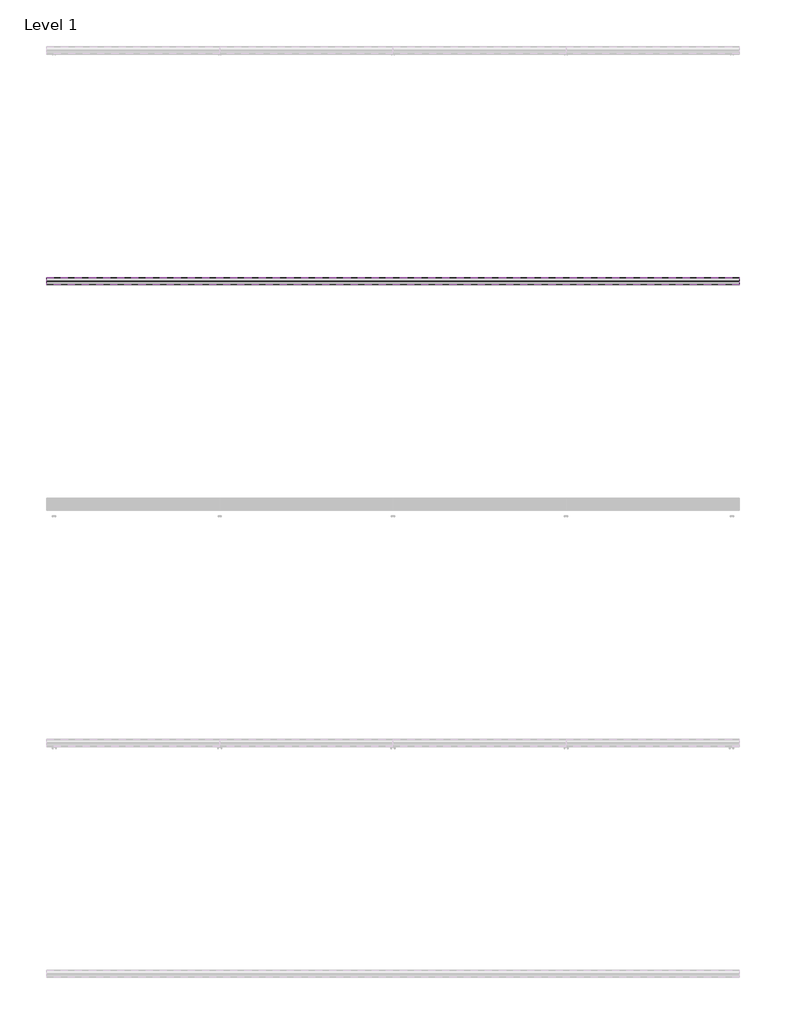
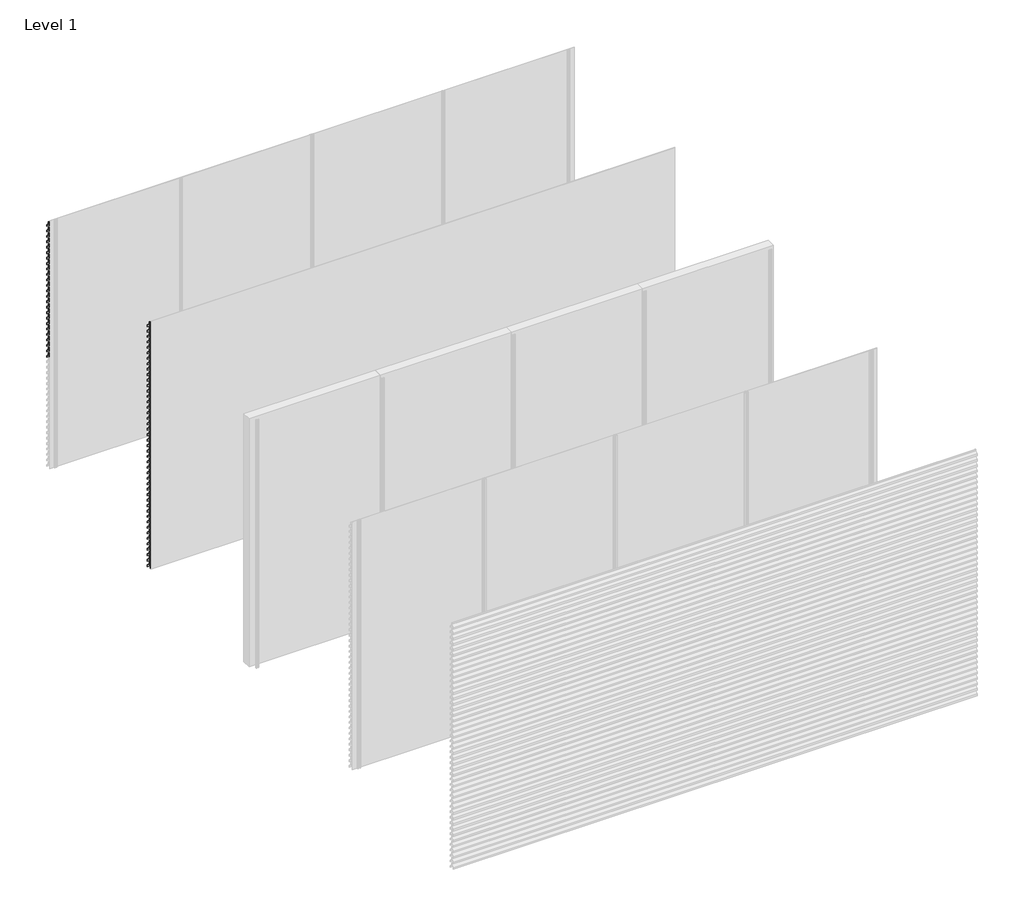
# One storey, part 32 of 35: 71 proxies.
"""IFC4 building model written with IfcOpenShell, lengths in millimetres."""

from ifc_helpers import new_model, si_unit, frame, origin, place, context, project, spatial, polyline, outline, extrude, element, save

model = new_model("IFC4")

# Units and contexts
model_context = context("Model", 3, world=origin())
ifc_project = project(units=[si_unit("LENGTHUNIT", "METRE", prefix="MILLI")], contexts=[model_context])

# Site, building, storey
site = spatial("IfcSite", under=ifc_project)
building = spatial("IfcBuilding", under=site)
storey = spatial("IfcBuildingStorey", under=building, Name="Level 1", Elevation=0.0)

# Proxies
placement = place(None, origin())
element("IfcBuildingElementProxy", 1, Name="Wall Sweeps", at=placement, inside=storey, context=model_context, shape_type="SweptSolid", body=[
    extrude(outline(polyline([(64.0, 2916.0), (64.0, 2896.0), (62.75, 2896.0), (62.75, 2915.4342979), (31.8861061, 2948.531772), (3.3, 2928.4392868), (3.3, 2909.6629874), (2.0, 2908.8506572), (2.0, 2929.1145472), (31.462475, 2949.823011), (31.462475, 2970.0), (32.8227376, 2970.0), (32.8227376, 2949.4335207), (64.0, 2916.0)])), frame((0.0, 0.0, 0.0), z_axis=(1.0, 0.0, 0.0), x_axis=(0.0, 1.0, 0.0)), (0.0, 0.0, 1.0), 1500.0),
])
element("IfcBuildingElementProxy", 2, Name="Wall Sweeps", at=placement, inside=storey, context=model_context, shape_type="SweptSolid", body=[
    extrude(outline(polyline([(64.0, 2850.0), (64.0, 2830.0), (62.75, 2830.0), (62.75, 2849.4342979), (31.8861061, 2882.531772), (3.3, 2862.4392868), (3.3, 2843.6629874), (2.0, 2842.8506572), (2.0, 2863.1145472), (31.462475, 2883.823011), (31.462475, 2904.0), (32.8227376, 2904.0), (32.8227376, 2883.4335207), (64.0, 2850.0)])), frame((0.0, 0.0, 0.0), z_axis=(1.0, 0.0, 0.0), x_axis=(0.0, 1.0, 0.0)), (0.0, 0.0, 1.0), 1500.0),
])
element("IfcBuildingElementProxy", 3, Name="Wall Sweeps", at=placement, inside=storey, context=model_context, shape_type="SweptSolid", body=[
    extrude(outline(polyline([(64.0, 2784.0), (64.0, 2764.0), (62.75, 2764.0), (62.75, 2783.4342979), (31.8861061, 2816.531772), (3.3, 2796.4392868), (3.3, 2777.6629874), (2.0, 2776.8506572), (2.0, 2797.1145472), (31.462475, 2817.823011), (31.462475, 2838.0), (32.8227376, 2838.0), (32.8227376, 2817.4335207), (64.0, 2784.0)])), frame((0.0, 0.0, 0.0), z_axis=(1.0, 0.0, 0.0), x_axis=(0.0, 1.0, 0.0)), (0.0, 0.0, 1.0), 1500.0),
])
element("IfcBuildingElementProxy", 4, Name="Wall Sweeps", at=placement, inside=storey, context=model_context, shape_type="SweptSolid", body=[
    extrude(outline(polyline([(64.0, 2718.0), (64.0, 2698.0), (62.75, 2698.0), (62.75, 2717.4342979), (31.8861061, 2750.531772), (3.3, 2730.4392868), (3.3, 2711.6629874), (2.0, 2710.8506572), (2.0, 2731.1145472), (31.462475, 2751.823011), (31.462475, 2772.0), (32.8227376, 2772.0), (32.8227376, 2751.4335207), (64.0, 2718.0)])), frame((0.0, 0.0, 0.0), z_axis=(1.0, 0.0, 0.0), x_axis=(0.0, 1.0, 0.0)), (0.0, 0.0, 1.0), 1500.0),
])
element("IfcBuildingElementProxy", 5, Name="Wall Sweeps", at=placement, inside=storey, context=model_context, shape_type="SweptSolid", body=[
    extrude(outline(polyline([(64.0, 2652.0), (64.0, 2632.0), (62.75, 2632.0), (62.75, 2651.4342979), (31.8861061, 2684.531772), (3.3, 2664.4392868), (3.3, 2645.6629874), (2.0, 2644.8506572), (2.0, 2665.1145472), (31.462475, 2685.823011), (31.462475, 2706.0), (32.8227376, 2706.0), (32.8227376, 2685.4335207), (64.0, 2652.0)])), frame((0.0, 0.0, 0.0), z_axis=(1.0, 0.0, 0.0), x_axis=(0.0, 1.0, 0.0)), (0.0, 0.0, 1.0), 1500.0),
])
element("IfcBuildingElementProxy", 6, Name="Wall Sweeps", at=placement, inside=storey, context=model_context, shape_type="SweptSolid", body=[
    extrude(outline(polyline([(64.0, 2586.0), (64.0, 2566.0), (62.75, 2566.0), (62.75, 2585.4342979), (31.8861061, 2618.531772), (3.3, 2598.4392868), (3.3, 2579.6629874), (2.0, 2578.8506572), (2.0, 2599.1145472), (31.462475, 2619.823011), (31.462475, 2640.0), (32.8227376, 2640.0), (32.8227376, 2619.4335207), (64.0, 2586.0)])), frame((0.0, 0.0, 0.0), z_axis=(1.0, 0.0, 0.0), x_axis=(0.0, 1.0, 0.0)), (0.0, 0.0, 1.0), 1500.0),
])
element("IfcBuildingElementProxy", 7, Name="Wall Sweeps", at=placement, inside=storey, context=model_context, shape_type="SweptSolid", body=[
    extrude(outline(polyline([(64.0, 2520.0), (64.0, 2500.0), (62.75, 2500.0), (62.75, 2519.4342979), (31.8861061, 2552.531772), (3.3, 2532.4392868), (3.3, 2513.6629874), (2.0, 2512.8506572), (2.0, 2533.1145472), (31.462475, 2553.823011), (31.462475, 2574.0), (32.8227376, 2574.0), (32.8227376, 2553.4335207), (64.0, 2520.0)])), frame((0.0, 0.0, 0.0), z_axis=(1.0, 0.0, 0.0), x_axis=(0.0, 1.0, 0.0)), (0.0, 0.0, 1.0), 1500.0),
])
element("IfcBuildingElementProxy", 8, Name="Wall Sweeps", at=placement, inside=storey, context=model_context, shape_type="SweptSolid", body=[
    extrude(outline(polyline([(64.0, 2454.0), (64.0, 2434.0), (62.75, 2434.0), (62.75, 2453.4342979), (31.8861061, 2486.531772), (3.3, 2466.4392868), (3.3, 2447.6629874), (2.0, 2446.8506572), (2.0, 2467.1145472), (31.462475, 2487.823011), (31.462475, 2508.0), (32.8227376, 2508.0), (32.8227376, 2487.4335207), (64.0, 2454.0)])), frame((0.0, 0.0, 0.0), z_axis=(1.0, 0.0, 0.0), x_axis=(0.0, 1.0, 0.0)), (0.0, 0.0, 1.0), 1500.0),
])
element("IfcBuildingElementProxy", 9, Name="Wall Sweeps", at=placement, inside=storey, context=model_context, shape_type="SweptSolid", body=[
    extrude(outline(polyline([(64.0, 2388.0), (64.0, 2368.0), (62.75, 2368.0), (62.75, 2387.4342979), (31.8861061, 2420.531772), (3.3, 2400.4392868), (3.3, 2381.6629874), (2.0, 2380.8506572), (2.0, 2401.1145472), (31.462475, 2421.823011), (31.462475, 2442.0), (32.8227376, 2442.0), (32.8227376, 2421.4335207), (64.0, 2388.0)])), frame((0.0, 0.0, 0.0), z_axis=(1.0, 0.0, 0.0), x_axis=(0.0, 1.0, 0.0)), (0.0, 0.0, 1.0), 1500.0),
])
element("IfcBuildingElementProxy", 10, Name="Wall Sweeps", at=placement, inside=storey, context=model_context, shape_type="SweptSolid", body=[
    extrude(outline(polyline([(64.0, 2322.0), (64.0, 2302.0), (62.75, 2302.0), (62.75, 2321.4342979), (31.8861061, 2354.531772), (3.3, 2334.4392868), (3.3, 2315.6629874), (2.0, 2314.8506572), (2.0, 2335.1145472), (31.462475, 2355.823011), (31.462475, 2376.0), (32.8227376, 2376.0), (32.8227376, 2355.4335207), (64.0, 2322.0)])), frame((0.0, 0.0, 0.0), z_axis=(1.0, 0.0, 0.0), x_axis=(0.0, 1.0, 0.0)), (0.0, 0.0, 1.0), 1500.0),
])
element("IfcBuildingElementProxy", 11, Name="Wall Sweeps", at=placement, inside=storey, context=model_context, shape_type="SweptSolid", body=[
    extrude(outline(polyline([(64.0, 2256.0), (64.0, 2236.0), (62.75, 2236.0), (62.75, 2255.4342979), (31.8861061, 2288.531772), (3.3, 2268.4392868), (3.3, 2249.6629874), (2.0, 2248.8506572), (2.0, 2269.1145472), (31.462475, 2289.823011), (31.462475, 2310.0), (32.8227376, 2310.0), (32.8227376, 2289.4335207), (64.0, 2256.0)])), frame((0.0, 0.0, 0.0), z_axis=(1.0, 0.0, 0.0), x_axis=(0.0, 1.0, 0.0)), (0.0, 0.0, 1.0), 1500.0),
])
element("IfcBuildingElementProxy", 12, Name="Wall Sweeps", at=placement, inside=storey, context=model_context, shape_type="SweptSolid", body=[
    extrude(outline(polyline([(64.0, 2190.0), (64.0, 2170.0), (62.75, 2170.0), (62.75, 2189.4342979), (31.8861061, 2222.531772), (3.3, 2202.4392868), (3.3, 2183.6629874), (2.0, 2182.8506572), (2.0, 2203.1145472), (31.462475, 2223.823011), (31.462475, 2244.0), (32.8227376, 2244.0), (32.8227376, 2223.4335207), (64.0, 2190.0)])), frame((0.0, 0.0, 0.0), z_axis=(1.0, 0.0, 0.0), x_axis=(0.0, 1.0, 0.0)), (0.0, 0.0, 1.0), 1500.0),
])
element("IfcBuildingElementProxy", 13, Name="Wall Sweeps", at=placement, inside=storey, context=model_context, shape_type="SweptSolid", body=[
    extrude(outline(polyline([(64.0, 2124.0), (64.0, 2104.0), (62.75, 2104.0), (62.75, 2123.4342979), (31.8861061, 2156.531772), (3.3, 2136.4392868), (3.3, 2117.6629874), (2.0, 2116.8506572), (2.0, 2137.1145472), (31.462475, 2157.823011), (31.462475, 2178.0), (32.8227376, 2178.0), (32.8227376, 2157.4335207), (64.0, 2124.0)])), frame((0.0, 0.0, 0.0), z_axis=(1.0, 0.0, 0.0), x_axis=(0.0, 1.0, 0.0)), (0.0, 0.0, 1.0), 1500.0),
])
element("IfcBuildingElementProxy", 14, Name="Wall Sweeps", at=placement, inside=storey, context=model_context, shape_type="SweptSolid", body=[
    extrude(outline(polyline([(64.0, 2058.0), (64.0, 2038.0), (62.75, 2038.0), (62.75, 2057.4342979), (31.8861061, 2090.531772), (3.3, 2070.4392868), (3.3, 2051.6629874), (2.0, 2050.8506572), (2.0, 2071.1145472), (31.462475, 2091.823011), (31.462475, 2112.0), (32.8227376, 2112.0), (32.8227376, 2091.4335207), (64.0, 2058.0)])), frame((0.0, 0.0, 0.0), z_axis=(1.0, 0.0, 0.0), x_axis=(0.0, 1.0, 0.0)), (0.0, 0.0, 1.0), 1500.0),
])
element("IfcBuildingElementProxy", 15, Name="Wall Sweeps", at=placement, inside=storey, context=model_context, shape_type="SweptSolid", body=[
    extrude(outline(polyline([(64.0, 1992.0), (64.0, 1972.0), (62.75, 1972.0), (62.75, 1991.4342979), (31.8861061, 2024.531772), (3.3, 2004.4392868), (3.3, 1985.6629874), (2.0, 1984.8506572), (2.0, 2005.1145472), (31.462475, 2025.823011), (31.462475, 2046.0), (32.8227376, 2046.0), (32.8227376, 2025.4335207), (64.0, 1992.0)])), frame((0.0, 0.0, 0.0), z_axis=(1.0, 0.0, 0.0), x_axis=(0.0, 1.0, 0.0)), (0.0, 0.0, 1.0), 1500.0),
])
element("IfcBuildingElementProxy", 16, Name="Wall Sweeps", at=placement, inside=storey, context=model_context, shape_type="SweptSolid", body=[
    extrude(outline(polyline([(64.0, 1926.0), (64.0, 1906.0), (62.75, 1906.0), (62.75, 1925.4342979), (31.8861061, 1958.531772), (3.3, 1938.4392868), (3.3, 1919.6629874), (2.0, 1918.8506572), (2.0, 1939.1145472), (31.462475, 1959.823011), (31.462475, 1980.0), (32.8227376, 1980.0), (32.8227376, 1959.4335207), (64.0, 1926.0)])), frame((0.0, 0.0, 0.0), z_axis=(1.0, 0.0, 0.0), x_axis=(0.0, 1.0, 0.0)), (0.0, 0.0, 1.0), 1500.0),
])
element("IfcBuildingElementProxy", 17, Name="Wall Sweeps", at=placement, inside=storey, context=model_context, shape_type="SweptSolid", body=[
    extrude(outline(polyline([(64.0, 1860.0), (64.0, 1840.0), (62.75, 1840.0), (62.75, 1859.4342979), (31.8861061, 1892.531772), (3.3, 1872.4392868), (3.3, 1853.6629874), (2.0, 1852.8506572), (2.0, 1873.1145472), (31.462475, 1893.823011), (31.462475, 1914.0), (32.8227376, 1914.0), (32.8227376, 1893.4335207), (64.0, 1860.0)])), frame((0.0, 0.0, 0.0), z_axis=(1.0, 0.0, 0.0), x_axis=(0.0, 1.0, 0.0)), (0.0, 0.0, 1.0), 1500.0),
])
element("IfcBuildingElementProxy", 18, Name="Wall Sweeps", at=placement, inside=storey, context=model_context, shape_type="SweptSolid", body=[
    extrude(outline(polyline([(64.0, 1794.0), (64.0, 1774.0), (62.75, 1774.0), (62.75, 1793.4342979), (31.8861061, 1826.531772), (3.3, 1806.4392868), (3.3, 1787.6629874), (2.0, 1786.8506572), (2.0, 1807.1145472), (31.462475, 1827.823011), (31.462475, 1848.0), (32.8227376, 1848.0), (32.8227376, 1827.4335207), (64.0, 1794.0)])), frame((0.0, 0.0, 0.0), z_axis=(1.0, 0.0, 0.0), x_axis=(0.0, 1.0, 0.0)), (0.0, 0.0, 1.0), 1500.0),
])
element("IfcBuildingElementProxy", 19, Name="Wall Sweeps", at=placement, inside=storey, context=model_context, shape_type="SweptSolid", body=[
    extrude(outline(polyline([(64.0, 1728.0), (64.0, 1708.0), (62.75, 1708.0), (62.75, 1727.4342979), (31.8861061, 1760.531772), (3.3, 1740.4392868), (3.3, 1721.6629874), (2.0, 1720.8506572), (2.0, 1741.1145472), (31.462475, 1761.823011), (31.462475, 1782.0), (32.8227376, 1782.0), (32.8227376, 1761.4335207), (64.0, 1728.0)])), frame((0.0, 0.0, 0.0), z_axis=(1.0, 0.0, 0.0), x_axis=(0.0, 1.0, 0.0)), (0.0, 0.0, 1.0), 1500.0),
])
element("IfcBuildingElementProxy", 20, Name="Wall Sweeps", at=placement, inside=storey, context=model_context, shape_type="SweptSolid", body=[
    extrude(outline(polyline([(64.0, 1662.0), (64.0, 1642.0), (62.75, 1642.0), (62.75, 1661.4342979), (31.8861061, 1694.531772), (3.3, 1674.4392868), (3.3, 1655.6629874), (2.0, 1654.8506572), (2.0, 1675.1145472), (31.462475, 1695.823011), (31.462475, 1716.0), (32.8227376, 1716.0), (32.8227376, 1695.4335207), (64.0, 1662.0)])), frame((0.0, 0.0, 0.0), z_axis=(1.0, 0.0, 0.0), x_axis=(0.0, 1.0, 0.0)), (0.0, 0.0, 1.0), 1500.0),
])
element("IfcBuildingElementProxy", 21, Name="Wall Sweeps", at=placement, inside=storey, context=model_context, shape_type="SweptSolid", body=[
    extrude(outline(polyline([(64.0, 1596.0), (64.0, 1576.0), (62.75, 1576.0), (62.75, 1595.4342979), (31.8861061, 1628.531772), (3.3, 1608.4392868), (3.3, 1589.6629874), (2.0, 1588.8506572), (2.0, 1609.1145472), (31.462475, 1629.823011), (31.462475, 1650.0), (32.8227376, 1650.0), (32.8227376, 1629.4335207), (64.0, 1596.0)])), frame((0.0, 0.0, 0.0), z_axis=(1.0, 0.0, 0.0), x_axis=(0.0, 1.0, 0.0)), (0.0, 0.0, 1.0), 1500.0),
])
element("IfcBuildingElementProxy", 22, Name="Wall Sweeps", at=placement, inside=storey, context=model_context, shape_type="SweptSolid", body=[
    extrude(outline(polyline([(64.0, 1530.0), (64.0, 1510.0), (62.75, 1510.0), (62.75, 1529.4342979), (31.8861061, 1562.531772), (3.3, 1542.4392868), (3.3, 1523.6629874), (2.0, 1522.8506572), (2.0, 1543.1145472), (31.462475, 1563.823011), (31.462475, 1584.0), (32.8227376, 1584.0), (32.8227376, 1563.4335207), (64.0, 1530.0)])), frame((0.0, 0.0, 0.0), z_axis=(1.0, 0.0, 0.0), x_axis=(0.0, 1.0, 0.0)), (0.0, 0.0, 1.0), 1500.0),
])
element("IfcBuildingElementProxy", 23, Name="Wall Sweeps", at=placement, inside=storey, context=model_context, shape_type="SweptSolid", body=[
    extrude(outline(polyline([(64.0, 1464.0), (64.0, 1444.0), (62.75, 1444.0), (62.75, 1463.4342979), (31.8861061, 1496.531772), (3.3, 1476.4392868), (3.3, 1457.6629874), (2.0, 1456.8506572), (2.0, 1477.1145472), (31.462475, 1497.823011), (31.462475, 1518.0), (32.8227376, 1518.0), (32.8227376, 1497.4335207), (64.0, 1464.0)])), frame((0.0, 0.0, 0.0), z_axis=(1.0, 0.0, 0.0), x_axis=(0.0, 1.0, 0.0)), (0.0, 0.0, 1.0), 1500.0),
])
element("IfcBuildingElementProxy", 24, Name="Wall Sweeps", at=placement, inside=storey, context=model_context, shape_type="SweptSolid", body=[
    extrude(outline(polyline([(64.0, 1398.0), (64.0, 1378.0), (62.75, 1378.0), (62.75, 1397.4342979), (31.8861061, 1430.531772), (3.3, 1410.4392868), (3.3, 1391.6629874), (2.0, 1390.8506572), (2.0, 1411.1145472), (31.462475, 1431.823011), (31.462475, 1452.0), (32.8227376, 1452.0), (32.8227376, 1431.4335207), (64.0, 1398.0)])), frame((0.0, 0.0, 0.0), z_axis=(1.0, 0.0, 0.0), x_axis=(0.0, 1.0, 0.0)), (0.0, 0.0, 1.0), 1500.0),
])
element("IfcBuildingElementProxy", 25, Name="Wall Sweeps", at=placement, inside=storey, context=model_context, shape_type="SweptSolid", body=[
    extrude(outline(polyline([(64.0, 1332.0), (64.0, 1312.0), (62.75, 1312.0), (62.75, 1331.4342979), (31.8861061, 1364.531772), (3.3, 1344.4392868), (3.3, 1325.6629874), (2.0, 1324.8506572), (2.0, 1345.1145472), (31.462475, 1365.823011), (31.462475, 1386.0), (32.8227376, 1386.0), (32.8227376, 1365.4335207), (64.0, 1332.0)])), frame((0.0, 0.0, 0.0), z_axis=(1.0, 0.0, 0.0), x_axis=(0.0, 1.0, 0.0)), (0.0, 0.0, 1.0), 1500.0),
])
element("IfcBuildingElementProxy", 26, Name="Wall Sweeps", at=placement, inside=storey, context=model_context, shape_type="SweptSolid", body=[
    extrude(outline(polyline([(-1936.0, 2916.0), (-1936.0, 2896.0), (-1937.25, 2896.0), (-1937.25, 2915.4342979), (-1968.1138939, 2948.531772), (-1996.7, 2928.4392868), (-1996.7, 2909.6629874), (-1998.0, 2908.8506572), (-1998.0, 2929.1145472), (-1968.537525, 2949.823011), (-1968.537525, 2970.0), (-1967.1772624, 2970.0), (-1967.1772624, 2949.4335207), (-1936.0, 2916.0)])), frame((0.0, 0.0, 0.0), z_axis=(1.0, 0.0, 0.0), x_axis=(0.0, 1.0, 0.0)), (0.0, 0.0, 1.0), 6000.0),
])
element("IfcBuildingElementProxy", 27, Name="Wall Sweeps", at=placement, inside=storey, context=model_context, shape_type="SweptSolid", body=[
    extrude(outline(polyline([(-1936.0, 2850.0), (-1936.0, 2830.0), (-1937.25, 2830.0), (-1937.25, 2849.4342979), (-1968.1138939, 2882.531772), (-1996.7, 2862.4392868), (-1996.7, 2843.6629874), (-1998.0, 2842.8506572), (-1998.0, 2863.1145472), (-1968.537525, 2883.823011), (-1968.537525, 2904.0), (-1967.1772624, 2904.0), (-1967.1772624, 2883.4335207), (-1936.0, 2850.0)])), frame((0.0, 0.0, 0.0), z_axis=(1.0, 0.0, 0.0), x_axis=(0.0, 1.0, 0.0)), (0.0, 0.0, 1.0), 6000.0),
])
element("IfcBuildingElementProxy", 28, Name="Wall Sweeps", at=placement, inside=storey, context=model_context, shape_type="SweptSolid", body=[
    extrude(outline(polyline([(-1936.0, 2784.0), (-1936.0, 2764.0), (-1937.25, 2764.0), (-1937.25, 2783.4342979), (-1968.1138939, 2816.531772), (-1996.7, 2796.4392868), (-1996.7, 2777.6629874), (-1998.0, 2776.8506572), (-1998.0, 2797.1145472), (-1968.537525, 2817.823011), (-1968.537525, 2838.0), (-1967.1772624, 2838.0), (-1967.1772624, 2817.4335207), (-1936.0, 2784.0)])), frame((0.0, 0.0, 0.0), z_axis=(1.0, 0.0, 0.0), x_axis=(0.0, 1.0, 0.0)), (0.0, 0.0, 1.0), 6000.0),
])
element("IfcBuildingElementProxy", 29, Name="Wall Sweeps", at=placement, inside=storey, context=model_context, shape_type="SweptSolid", body=[
    extrude(outline(polyline([(-1936.0, 2718.0), (-1936.0, 2698.0), (-1937.25, 2698.0), (-1937.25, 2717.4342979), (-1968.1138939, 2750.531772), (-1996.7, 2730.4392868), (-1996.7, 2711.6629874), (-1998.0, 2710.8506572), (-1998.0, 2731.1145472), (-1968.537525, 2751.823011), (-1968.537525, 2772.0), (-1967.1772624, 2772.0), (-1967.1772624, 2751.4335207), (-1936.0, 2718.0)])), frame((0.0, 0.0, 0.0), z_axis=(1.0, 0.0, 0.0), x_axis=(0.0, 1.0, 0.0)), (0.0, 0.0, 1.0), 6000.0),
])
element("IfcBuildingElementProxy", 30, Name="Wall Sweeps", at=placement, inside=storey, context=model_context, shape_type="SweptSolid", body=[
    extrude(outline(polyline([(-1936.0, 2652.0), (-1936.0, 2632.0), (-1937.25, 2632.0), (-1937.25, 2651.4342979), (-1968.1138939, 2684.531772), (-1996.7, 2664.4392868), (-1996.7, 2645.6629874), (-1998.0, 2644.8506572), (-1998.0, 2665.1145472), (-1968.537525, 2685.823011), (-1968.537525, 2706.0), (-1967.1772624, 2706.0), (-1967.1772624, 2685.4335207), (-1936.0, 2652.0)])), frame((0.0, 0.0, 0.0), z_axis=(1.0, 0.0, 0.0), x_axis=(0.0, 1.0, 0.0)), (0.0, 0.0, 1.0), 6000.0),
])
element("IfcBuildingElementProxy", 31, Name="Wall Sweeps", at=placement, inside=storey, context=model_context, shape_type="SweptSolid", body=[
    extrude(outline(polyline([(-1936.0, 2586.0), (-1936.0, 2566.0), (-1937.25, 2566.0), (-1937.25, 2585.4342979), (-1968.1138939, 2618.531772), (-1996.7, 2598.4392868), (-1996.7, 2579.6629874), (-1998.0, 2578.8506572), (-1998.0, 2599.1145472), (-1968.537525, 2619.823011), (-1968.537525, 2640.0), (-1967.1772624, 2640.0), (-1967.1772624, 2619.4335207), (-1936.0, 2586.0)])), frame((0.0, 0.0, 0.0), z_axis=(1.0, 0.0, 0.0), x_axis=(0.0, 1.0, 0.0)), (0.0, 0.0, 1.0), 6000.0),
])
element("IfcBuildingElementProxy", 32, Name="Wall Sweeps", at=placement, inside=storey, context=model_context, shape_type="SweptSolid", body=[
    extrude(outline(polyline([(-1936.0, 2520.0), (-1936.0, 2500.0), (-1937.25, 2500.0), (-1937.25, 2519.4342979), (-1968.1138939, 2552.531772), (-1996.7, 2532.4392868), (-1996.7, 2513.6629874), (-1998.0, 2512.8506572), (-1998.0, 2533.1145472), (-1968.537525, 2553.823011), (-1968.537525, 2574.0), (-1967.1772624, 2574.0), (-1967.1772624, 2553.4335207), (-1936.0, 2520.0)])), frame((0.0, 0.0, 0.0), z_axis=(1.0, 0.0, 0.0), x_axis=(0.0, 1.0, 0.0)), (0.0, 0.0, 1.0), 6000.0),
])
element("IfcBuildingElementProxy", 33, Name="Wall Sweeps", at=placement, inside=storey, context=model_context, shape_type="SweptSolid", body=[
    extrude(outline(polyline([(-1936.0, 2454.0), (-1936.0, 2434.0), (-1937.25, 2434.0), (-1937.25, 2453.4342979), (-1968.1138939, 2486.531772), (-1996.7, 2466.4392868), (-1996.7, 2447.6629874), (-1998.0, 2446.8506572), (-1998.0, 2467.1145472), (-1968.537525, 2487.823011), (-1968.537525, 2508.0), (-1967.1772624, 2508.0), (-1967.1772624, 2487.4335207), (-1936.0, 2454.0)])), frame((0.0, 0.0, 0.0), z_axis=(1.0, 0.0, 0.0), x_axis=(0.0, 1.0, 0.0)), (0.0, 0.0, 1.0), 6000.0),
])
element("IfcBuildingElementProxy", 34, Name="Wall Sweeps", at=placement, inside=storey, context=model_context, shape_type="SweptSolid", body=[
    extrude(outline(polyline([(-1936.0, 2388.0), (-1936.0, 2368.0), (-1937.25, 2368.0), (-1937.25, 2387.4342979), (-1968.1138939, 2420.531772), (-1996.7, 2400.4392868), (-1996.7, 2381.6629874), (-1998.0, 2380.8506572), (-1998.0, 2401.1145472), (-1968.537525, 2421.823011), (-1968.537525, 2442.0), (-1967.1772624, 2442.0), (-1967.1772624, 2421.4335207), (-1936.0, 2388.0)])), frame((0.0, 0.0, 0.0), z_axis=(1.0, 0.0, 0.0), x_axis=(0.0, 1.0, 0.0)), (0.0, 0.0, 1.0), 6000.0),
])
element("IfcBuildingElementProxy", 35, Name="Wall Sweeps", at=placement, inside=storey, context=model_context, shape_type="SweptSolid", body=[
    extrude(outline(polyline([(-1936.0, 2322.0), (-1936.0, 2302.0), (-1937.25, 2302.0), (-1937.25, 2321.4342979), (-1968.1138939, 2354.531772), (-1996.7, 2334.4392868), (-1996.7, 2315.6629874), (-1998.0, 2314.8506572), (-1998.0, 2335.1145472), (-1968.537525, 2355.823011), (-1968.537525, 2376.0), (-1967.1772624, 2376.0), (-1967.1772624, 2355.4335207), (-1936.0, 2322.0)])), frame((0.0, 0.0, 0.0), z_axis=(1.0, 0.0, 0.0), x_axis=(0.0, 1.0, 0.0)), (0.0, 0.0, 1.0), 6000.0),
])
element("IfcBuildingElementProxy", 36, Name="Wall Sweeps", at=placement, inside=storey, context=model_context, shape_type="SweptSolid", body=[
    extrude(outline(polyline([(-1936.0, 2256.0), (-1936.0, 2236.0), (-1937.25, 2236.0), (-1937.25, 2255.4342979), (-1968.1138939, 2288.531772), (-1996.7, 2268.4392868), (-1996.7, 2249.6629874), (-1998.0, 2248.8506572), (-1998.0, 2269.1145472), (-1968.537525, 2289.823011), (-1968.537525, 2310.0), (-1967.1772624, 2310.0), (-1967.1772624, 2289.4335207), (-1936.0, 2256.0)])), frame((0.0, 0.0, 0.0), z_axis=(1.0, 0.0, 0.0), x_axis=(0.0, 1.0, 0.0)), (0.0, 0.0, 1.0), 6000.0),
])
element("IfcBuildingElementProxy", 37, Name="Wall Sweeps", at=placement, inside=storey, context=model_context, shape_type="SweptSolid", body=[
    extrude(outline(polyline([(-1936.0, 2190.0), (-1936.0, 2170.0), (-1937.25, 2170.0), (-1937.25, 2189.4342979), (-1968.1138939, 2222.531772), (-1996.7, 2202.4392868), (-1996.7, 2183.6629874), (-1998.0, 2182.8506572), (-1998.0, 2203.1145472), (-1968.537525, 2223.823011), (-1968.537525, 2244.0), (-1967.1772624, 2244.0), (-1967.1772624, 2223.4335207), (-1936.0, 2190.0)])), frame((0.0, 0.0, 0.0), z_axis=(1.0, 0.0, 0.0), x_axis=(0.0, 1.0, 0.0)), (0.0, 0.0, 1.0), 6000.0),
])
element("IfcBuildingElementProxy", 38, Name="Wall Sweeps", at=placement, inside=storey, context=model_context, shape_type="SweptSolid", body=[
    extrude(outline(polyline([(-1936.0, 2124.0), (-1936.0, 2104.0), (-1937.25, 2104.0), (-1937.25, 2123.4342979), (-1968.1138939, 2156.531772), (-1996.7, 2136.4392868), (-1996.7, 2117.6629874), (-1998.0, 2116.8506572), (-1998.0, 2137.1145472), (-1968.537525, 2157.823011), (-1968.537525, 2178.0), (-1967.1772624, 2178.0), (-1967.1772624, 2157.4335207), (-1936.0, 2124.0)])), frame((0.0, 0.0, 0.0), z_axis=(1.0, 0.0, 0.0), x_axis=(0.0, 1.0, 0.0)), (0.0, 0.0, 1.0), 6000.0),
])
element("IfcBuildingElementProxy", 39, Name="Wall Sweeps", at=placement, inside=storey, context=model_context, shape_type="SweptSolid", body=[
    extrude(outline(polyline([(-1936.0, 2058.0), (-1936.0, 2038.0), (-1937.25, 2038.0), (-1937.25, 2057.4342979), (-1968.1138939, 2090.531772), (-1996.7, 2070.4392868), (-1996.7, 2051.6629874), (-1998.0, 2050.8506572), (-1998.0, 2071.1145472), (-1968.537525, 2091.823011), (-1968.537525, 2112.0), (-1967.1772624, 2112.0), (-1967.1772624, 2091.4335207), (-1936.0, 2058.0)])), frame((0.0, 0.0, 0.0), z_axis=(1.0, 0.0, 0.0), x_axis=(0.0, 1.0, 0.0)), (0.0, 0.0, 1.0), 6000.0),
])
element("IfcBuildingElementProxy", 40, Name="Wall Sweeps", at=placement, inside=storey, context=model_context, shape_type="SweptSolid", body=[
    extrude(outline(polyline([(-1936.0, 1992.0), (-1936.0, 1972.0), (-1937.25, 1972.0), (-1937.25, 1991.4342979), (-1968.1138939, 2024.531772), (-1996.7, 2004.4392868), (-1996.7, 1985.6629874), (-1998.0, 1984.8506572), (-1998.0, 2005.1145472), (-1968.537525, 2025.823011), (-1968.537525, 2046.0), (-1967.1772624, 2046.0), (-1967.1772624, 2025.4335207), (-1936.0, 1992.0)])), frame((0.0, 0.0, 0.0), z_axis=(1.0, 0.0, 0.0), x_axis=(0.0, 1.0, 0.0)), (0.0, 0.0, 1.0), 6000.0),
])
element("IfcBuildingElementProxy", 41, Name="Wall Sweeps", at=placement, inside=storey, context=model_context, shape_type="SweptSolid", body=[
    extrude(outline(polyline([(-1936.0, 1926.0), (-1936.0, 1906.0), (-1937.25, 1906.0), (-1937.25, 1925.4342979), (-1968.1138939, 1958.531772), (-1996.7, 1938.4392868), (-1996.7, 1919.6629874), (-1998.0, 1918.8506572), (-1998.0, 1939.1145472), (-1968.537525, 1959.823011), (-1968.537525, 1980.0), (-1967.1772624, 1980.0), (-1967.1772624, 1959.4335207), (-1936.0, 1926.0)])), frame((0.0, 0.0, 0.0), z_axis=(1.0, 0.0, 0.0), x_axis=(0.0, 1.0, 0.0)), (0.0, 0.0, 1.0), 6000.0),
])
element("IfcBuildingElementProxy", 42, Name="Wall Sweeps", at=placement, inside=storey, context=model_context, shape_type="SweptSolid", body=[
    extrude(outline(polyline([(-1936.0, 1860.0), (-1936.0, 1840.0), (-1937.25, 1840.0), (-1937.25, 1859.4342979), (-1968.1138939, 1892.531772), (-1996.7, 1872.4392868), (-1996.7, 1853.6629874), (-1998.0, 1852.8506572), (-1998.0, 1873.1145472), (-1968.537525, 1893.823011), (-1968.537525, 1914.0), (-1967.1772624, 1914.0), (-1967.1772624, 1893.4335207), (-1936.0, 1860.0)])), frame((0.0, 0.0, 0.0), z_axis=(1.0, 0.0, 0.0), x_axis=(0.0, 1.0, 0.0)), (0.0, 0.0, 1.0), 6000.0),
])
element("IfcBuildingElementProxy", 43, Name="Wall Sweeps", at=placement, inside=storey, context=model_context, shape_type="SweptSolid", body=[
    extrude(outline(polyline([(-1936.0, 1794.0), (-1936.0, 1774.0), (-1937.25, 1774.0), (-1937.25, 1793.4342979), (-1968.1138939, 1826.531772), (-1996.7, 1806.4392868), (-1996.7, 1787.6629874), (-1998.0, 1786.8506572), (-1998.0, 1807.1145472), (-1968.537525, 1827.823011), (-1968.537525, 1848.0), (-1967.1772624, 1848.0), (-1967.1772624, 1827.4335207), (-1936.0, 1794.0)])), frame((0.0, 0.0, 0.0), z_axis=(1.0, 0.0, 0.0), x_axis=(0.0, 1.0, 0.0)), (0.0, 0.0, 1.0), 6000.0),
])
element("IfcBuildingElementProxy", 44, Name="Wall Sweeps", at=placement, inside=storey, context=model_context, shape_type="SweptSolid", body=[
    extrude(outline(polyline([(-1936.0, 1728.0), (-1936.0, 1708.0), (-1937.25, 1708.0), (-1937.25, 1727.4342979), (-1968.1138939, 1760.531772), (-1996.7, 1740.4392868), (-1996.7, 1721.6629874), (-1998.0, 1720.8506572), (-1998.0, 1741.1145472), (-1968.537525, 1761.823011), (-1968.537525, 1782.0), (-1967.1772624, 1782.0), (-1967.1772624, 1761.4335207), (-1936.0, 1728.0)])), frame((0.0, 0.0, 0.0), z_axis=(1.0, 0.0, 0.0), x_axis=(0.0, 1.0, 0.0)), (0.0, 0.0, 1.0), 6000.0),
])
element("IfcBuildingElementProxy", 45, Name="Wall Sweeps", at=placement, inside=storey, context=model_context, shape_type="SweptSolid", body=[
    extrude(outline(polyline([(-1936.0, 1662.0), (-1936.0, 1642.0), (-1937.25, 1642.0), (-1937.25, 1661.4342979), (-1968.1138939, 1694.531772), (-1996.7, 1674.4392868), (-1996.7, 1655.6629874), (-1998.0, 1654.8506572), (-1998.0, 1675.1145472), (-1968.537525, 1695.823011), (-1968.537525, 1716.0), (-1967.1772624, 1716.0), (-1967.1772624, 1695.4335207), (-1936.0, 1662.0)])), frame((0.0, 0.0, 0.0), z_axis=(1.0, 0.0, 0.0), x_axis=(0.0, 1.0, 0.0)), (0.0, 0.0, 1.0), 6000.0),
])
element("IfcBuildingElementProxy", 46, Name="Wall Sweeps", at=placement, inside=storey, context=model_context, shape_type="SweptSolid", body=[
    extrude(outline(polyline([(-1936.0, 1596.0), (-1936.0, 1576.0), (-1937.25, 1576.0), (-1937.25, 1595.4342979), (-1968.1138939, 1628.531772), (-1996.7, 1608.4392868), (-1996.7, 1589.6629874), (-1998.0, 1588.8506572), (-1998.0, 1609.1145472), (-1968.537525, 1629.823011), (-1968.537525, 1650.0), (-1967.1772624, 1650.0), (-1967.1772624, 1629.4335207), (-1936.0, 1596.0)])), frame((0.0, 0.0, 0.0), z_axis=(1.0, 0.0, 0.0), x_axis=(0.0, 1.0, 0.0)), (0.0, 0.0, 1.0), 6000.0),
])
element("IfcBuildingElementProxy", 47, Name="Wall Sweeps", at=placement, inside=storey, context=model_context, shape_type="SweptSolid", body=[
    extrude(outline(polyline([(-1936.0, 1530.0), (-1936.0, 1510.0), (-1937.25, 1510.0), (-1937.25, 1529.4342979), (-1968.1138939, 1562.531772), (-1996.7, 1542.4392868), (-1996.7, 1523.6629874), (-1998.0, 1522.8506572), (-1998.0, 1543.1145472), (-1968.537525, 1563.823011), (-1968.537525, 1584.0), (-1967.1772624, 1584.0), (-1967.1772624, 1563.4335207), (-1936.0, 1530.0)])), frame((0.0, 0.0, 0.0), z_axis=(1.0, 0.0, 0.0), x_axis=(0.0, 1.0, 0.0)), (0.0, 0.0, 1.0), 6000.0),
])
element("IfcBuildingElementProxy", 48, Name="Wall Sweeps", at=placement, inside=storey, context=model_context, shape_type="SweptSolid", body=[
    extrude(outline(polyline([(-1936.0, 1464.0), (-1936.0, 1444.0), (-1937.25, 1444.0), (-1937.25, 1463.4342979), (-1968.1138939, 1496.531772), (-1996.7, 1476.4392868), (-1996.7, 1457.6629874), (-1998.0, 1456.8506572), (-1998.0, 1477.1145472), (-1968.537525, 1497.823011), (-1968.537525, 1518.0), (-1967.1772624, 1518.0), (-1967.1772624, 1497.4335207), (-1936.0, 1464.0)])), frame((0.0, 0.0, 0.0), z_axis=(1.0, 0.0, 0.0), x_axis=(0.0, 1.0, 0.0)), (0.0, 0.0, 1.0), 6000.0),
])
element("IfcBuildingElementProxy", 49, Name="Wall Sweeps", at=placement, inside=storey, context=model_context, shape_type="SweptSolid", body=[
    extrude(outline(polyline([(-1936.0, 1398.0), (-1936.0, 1378.0), (-1937.25, 1378.0), (-1937.25, 1397.4342979), (-1968.1138939, 1430.531772), (-1996.7, 1410.4392868), (-1996.7, 1391.6629874), (-1998.0, 1390.8506572), (-1998.0, 1411.1145472), (-1968.537525, 1431.823011), (-1968.537525, 1452.0), (-1967.1772624, 1452.0), (-1967.1772624, 1431.4335207), (-1936.0, 1398.0)])), frame((0.0, 0.0, 0.0), z_axis=(1.0, 0.0, 0.0), x_axis=(0.0, 1.0, 0.0)), (0.0, 0.0, 1.0), 6000.0),
])
element("IfcBuildingElementProxy", 50, Name="Wall Sweeps", at=placement, inside=storey, context=model_context, shape_type="SweptSolid", body=[
    extrude(outline(polyline([(-1936.0, 1332.0), (-1936.0, 1312.0), (-1937.25, 1312.0), (-1937.25, 1331.4342979), (-1968.1138939, 1364.531772), (-1996.7, 1344.4392868), (-1996.7, 1325.6629874), (-1998.0, 1324.8506572), (-1998.0, 1345.1145472), (-1968.537525, 1365.823011), (-1968.537525, 1386.0), (-1967.1772624, 1386.0), (-1967.1772624, 1365.4335207), (-1936.0, 1332.0)])), frame((0.0, 0.0, 0.0), z_axis=(1.0, 0.0, 0.0), x_axis=(0.0, 1.0, 0.0)), (0.0, 0.0, 1.0), 6000.0),
])
element("IfcBuildingElementProxy", 51, Name="Wall Sweeps", at=placement, inside=storey, context=model_context, shape_type="SweptSolid", body=[
    extrude(outline(polyline([(-1936.0, 1266.0), (-1936.0, 1246.0), (-1937.25, 1246.0), (-1937.25, 1265.4342979), (-1968.1138939, 1298.531772), (-1996.7, 1278.4392868), (-1996.7, 1259.6629874), (-1998.0, 1258.8506572), (-1998.0, 1279.1145472), (-1968.537525, 1299.823011), (-1968.537525, 1320.0), (-1967.1772624, 1320.0), (-1967.1772624, 1299.4335207), (-1936.0, 1266.0)])), frame((0.0, 0.0, 0.0), z_axis=(1.0, 0.0, 0.0), x_axis=(0.0, 1.0, 0.0)), (0.0, 0.0, 1.0), 6000.0),
])
element("IfcBuildingElementProxy", 52, Name="Wall Sweeps", at=placement, inside=storey, context=model_context, shape_type="SweptSolid", body=[
    extrude(outline(polyline([(-1936.0, 1200.0), (-1936.0, 1180.0), (-1937.25, 1180.0), (-1937.25, 1199.4342979), (-1968.1138939, 1232.531772), (-1996.7, 1212.4392868), (-1996.7, 1193.6629874), (-1998.0, 1192.8506572), (-1998.0, 1213.1145472), (-1968.537525, 1233.823011), (-1968.537525, 1254.0), (-1967.1772624, 1254.0), (-1967.1772624, 1233.4335207), (-1936.0, 1200.0)])), frame((0.0, 0.0, 0.0), z_axis=(1.0, 0.0, 0.0), x_axis=(0.0, 1.0, 0.0)), (0.0, 0.0, 1.0), 6000.0),
])
element("IfcBuildingElementProxy", 53, Name="Wall Sweeps", at=placement, inside=storey, context=model_context, shape_type="SweptSolid", body=[
    extrude(outline(polyline([(-1936.0, 1134.0), (-1936.0, 1114.0), (-1937.25, 1114.0), (-1937.25, 1133.4342979), (-1968.1138939, 1166.531772), (-1996.7, 1146.4392868), (-1996.7, 1127.6629874), (-1998.0, 1126.8506572), (-1998.0, 1147.1145472), (-1968.537525, 1167.823011), (-1968.537525, 1188.0), (-1967.1772624, 1188.0), (-1967.1772624, 1167.4335207), (-1936.0, 1134.0)])), frame((0.0, 0.0, 0.0), z_axis=(1.0, 0.0, 0.0), x_axis=(0.0, 1.0, 0.0)), (0.0, 0.0, 1.0), 6000.0),
])
element("IfcBuildingElementProxy", 54, Name="Wall Sweeps", at=placement, inside=storey, context=model_context, shape_type="SweptSolid", body=[
    extrude(outline(polyline([(-1936.0, 1068.0), (-1936.0, 1048.0), (-1937.25, 1048.0), (-1937.25, 1067.4342979), (-1968.1138939, 1100.531772), (-1996.7, 1080.4392868), (-1996.7, 1061.6629874), (-1998.0, 1060.8506572), (-1998.0, 1081.1145472), (-1968.537525, 1101.823011), (-1968.537525, 1122.0), (-1967.1772624, 1122.0), (-1967.1772624, 1101.4335207), (-1936.0, 1068.0)])), frame((0.0, 0.0, 0.0), z_axis=(1.0, 0.0, 0.0), x_axis=(0.0, 1.0, 0.0)), (0.0, 0.0, 1.0), 6000.0),
])
element("IfcBuildingElementProxy", 55, Name="Wall Sweeps", at=placement, inside=storey, context=model_context, shape_type="SweptSolid", body=[
    extrude(outline(polyline([(-1936.0, 1002.0), (-1936.0, 982.0), (-1937.25, 982.0), (-1937.25, 1001.4342979), (-1968.1138939, 1034.531772), (-1996.7, 1014.4392868), (-1996.7, 995.6629874), (-1998.0, 994.8506572), (-1998.0, 1015.1145472), (-1968.537525, 1035.823011), (-1968.537525, 1056.0), (-1967.1772624, 1056.0), (-1967.1772624, 1035.4335207), (-1936.0, 1002.0)])), frame((0.0, 0.0, 0.0), z_axis=(1.0, 0.0, 0.0), x_axis=(0.0, 1.0, 0.0)), (0.0, 0.0, 1.0), 6000.0),
])
element("IfcBuildingElementProxy", 56, Name="Wall Sweeps", at=placement, inside=storey, context=model_context, shape_type="SweptSolid", body=[
    extrude(outline(polyline([(-1936.0, 936.0), (-1936.0, 916.0), (-1937.25, 916.0), (-1937.25, 935.4342979), (-1968.1138939, 968.531772), (-1996.7, 948.4392868), (-1996.7, 929.6629874), (-1998.0, 928.8506572), (-1998.0, 949.1145472), (-1968.537525, 969.823011), (-1968.537525, 990.0), (-1967.1772624, 990.0), (-1967.1772624, 969.4335207), (-1936.0, 936.0)])), frame((0.0, 0.0, 0.0), z_axis=(1.0, 0.0, 0.0), x_axis=(0.0, 1.0, 0.0)), (0.0, 0.0, 1.0), 6000.0),
])
element("IfcBuildingElementProxy", 57, Name="Wall Sweeps", at=placement, inside=storey, context=model_context, shape_type="SweptSolid", body=[
    extrude(outline(polyline([(-1936.0, 870.0), (-1936.0, 850.0), (-1937.25, 850.0), (-1937.25, 869.4342979), (-1968.1138939, 902.531772), (-1996.7, 882.4392868), (-1996.7, 863.6629874), (-1998.0, 862.8506572), (-1998.0, 883.1145472), (-1968.537525, 903.823011), (-1968.537525, 924.0), (-1967.1772624, 924.0), (-1967.1772624, 903.4335207), (-1936.0, 870.0)])), frame((0.0, 0.0, 0.0), z_axis=(1.0, 0.0, 0.0), x_axis=(0.0, 1.0, 0.0)), (0.0, 0.0, 1.0), 6000.0),
])
element("IfcBuildingElementProxy", 58, Name="Wall Sweeps", at=placement, inside=storey, context=model_context, shape_type="SweptSolid", body=[
    extrude(outline(polyline([(-1936.0, 804.0), (-1936.0, 784.0), (-1937.25, 784.0), (-1937.25, 803.4342979), (-1968.1138939, 836.531772), (-1996.7, 816.4392868), (-1996.7, 797.6629874), (-1998.0, 796.8506572), (-1998.0, 817.1145472), (-1968.537525, 837.823011), (-1968.537525, 858.0), (-1967.1772624, 858.0), (-1967.1772624, 837.4335207), (-1936.0, 804.0)])), frame((0.0, 0.0, 0.0), z_axis=(1.0, 0.0, 0.0), x_axis=(0.0, 1.0, 0.0)), (0.0, 0.0, 1.0), 6000.0),
])
element("IfcBuildingElementProxy", 59, Name="Wall Sweeps", at=placement, inside=storey, context=model_context, shape_type="SweptSolid", body=[
    extrude(outline(polyline([(-1936.0, 738.0), (-1936.0, 718.0), (-1937.25, 718.0), (-1937.25, 737.4342979), (-1968.1138939, 770.531772), (-1996.7, 750.4392868), (-1996.7, 731.6629874), (-1998.0, 730.8506572), (-1998.0, 751.1145472), (-1968.537525, 771.823011), (-1968.537525, 792.0), (-1967.1772624, 792.0), (-1967.1772624, 771.4335207), (-1936.0, 738.0)])), frame((0.0, 0.0, 0.0), z_axis=(1.0, 0.0, 0.0), x_axis=(0.0, 1.0, 0.0)), (0.0, 0.0, 1.0), 6000.0),
])
element("IfcBuildingElementProxy", 60, Name="Wall Sweeps", at=placement, inside=storey, context=model_context, shape_type="SweptSolid", body=[
    extrude(outline(polyline([(-1936.0, 672.0), (-1936.0, 652.0), (-1937.25, 652.0), (-1937.25, 671.4342979), (-1968.1138939, 704.531772), (-1996.7, 684.4392868), (-1996.7, 665.6629874), (-1998.0, 664.8506572), (-1998.0, 685.1145472), (-1968.537525, 705.823011), (-1968.537525, 726.0), (-1967.1772624, 726.0), (-1967.1772624, 705.4335207), (-1936.0, 672.0)])), frame((0.0, 0.0, 0.0), z_axis=(1.0, 0.0, 0.0), x_axis=(0.0, 1.0, 0.0)), (0.0, 0.0, 1.0), 6000.0),
])
element("IfcBuildingElementProxy", 61, Name="Wall Sweeps", at=placement, inside=storey, context=model_context, shape_type="SweptSolid", body=[
    extrude(outline(polyline([(-1936.0, 606.0), (-1936.0, 586.0), (-1937.25, 586.0), (-1937.25, 605.4342979), (-1968.1138939, 638.531772), (-1996.7, 618.4392868), (-1996.7, 599.6629874), (-1998.0, 598.8506572), (-1998.0, 619.1145472), (-1968.537525, 639.823011), (-1968.537525, 660.0), (-1967.1772624, 660.0), (-1967.1772624, 639.4335207), (-1936.0, 606.0)])), frame((0.0, 0.0, 0.0), z_axis=(1.0, 0.0, 0.0), x_axis=(0.0, 1.0, 0.0)), (0.0, 0.0, 1.0), 6000.0),
])
element("IfcBuildingElementProxy", 62, Name="Wall Sweeps", at=placement, inside=storey, context=model_context, shape_type="SweptSolid", body=[
    extrude(outline(polyline([(-1936.0, 540.0), (-1936.0, 520.0), (-1937.25, 520.0), (-1937.25, 539.4342979), (-1968.1138939, 572.531772), (-1996.7, 552.4392868), (-1996.7, 533.6629874), (-1998.0, 532.8506572), (-1998.0, 553.1145472), (-1968.537525, 573.823011), (-1968.537525, 594.0), (-1967.1772624, 594.0), (-1967.1772624, 573.4335207), (-1936.0, 540.0)])), frame((0.0, 0.0, 0.0), z_axis=(1.0, 0.0, 0.0), x_axis=(0.0, 1.0, 0.0)), (0.0, 0.0, 1.0), 6000.0),
])
element("IfcBuildingElementProxy", 63, Name="Wall Sweeps", at=placement, inside=storey, context=model_context, shape_type="SweptSolid", body=[
    extrude(outline(polyline([(-1936.0, 474.0), (-1936.0, 454.0), (-1937.25, 454.0), (-1937.25, 473.4342979), (-1968.1138939, 506.531772), (-1996.7, 486.4392868), (-1996.7, 467.6629874), (-1998.0, 466.8506572), (-1998.0, 487.1145472), (-1968.537525, 507.823011), (-1968.537525, 528.0), (-1967.1772624, 528.0), (-1967.1772624, 507.4335207), (-1936.0, 474.0)])), frame((0.0, 0.0, 0.0), z_axis=(1.0, 0.0, 0.0), x_axis=(0.0, 1.0, 0.0)), (0.0, 0.0, 1.0), 6000.0),
])
element("IfcBuildingElementProxy", 64, Name="Wall Sweeps", at=placement, inside=storey, context=model_context, shape_type="SweptSolid", body=[
    extrude(outline(polyline([(-1936.0, 408.0), (-1936.0, 388.0), (-1937.25, 388.0), (-1937.25, 407.4342979), (-1968.1138939, 440.531772), (-1996.7, 420.4392868), (-1996.7, 401.6629874), (-1998.0, 400.8506572), (-1998.0, 421.1145472), (-1968.537525, 441.823011), (-1968.537525, 462.0), (-1967.1772624, 462.0), (-1967.1772624, 441.4335207), (-1936.0, 408.0)])), frame((0.0, 0.0, 0.0), z_axis=(1.0, 0.0, 0.0), x_axis=(0.0, 1.0, 0.0)), (0.0, 0.0, 1.0), 6000.0),
])
element("IfcBuildingElementProxy", 65, Name="Wall Sweeps", at=placement, inside=storey, context=model_context, shape_type="SweptSolid", body=[
    extrude(outline(polyline([(-1936.0, 342.0), (-1936.0, 322.0), (-1937.25, 322.0), (-1937.25, 341.4342979), (-1968.1138939, 374.531772), (-1996.7, 354.4392868), (-1996.7, 335.6629874), (-1998.0, 334.8506572), (-1998.0, 355.1145472), (-1968.537525, 375.823011), (-1968.537525, 396.0), (-1967.1772624, 396.0), (-1967.1772624, 375.4335207), (-1936.0, 342.0)])), frame((0.0, 0.0, 0.0), z_axis=(1.0, 0.0, 0.0), x_axis=(0.0, 1.0, 0.0)), (0.0, 0.0, 1.0), 6000.0),
])
element("IfcBuildingElementProxy", 66, Name="Wall Sweeps", at=placement, inside=storey, context=model_context, shape_type="SweptSolid", body=[
    extrude(outline(polyline([(-1936.0, 276.0), (-1936.0, 256.0), (-1937.25, 256.0), (-1937.25, 275.4342979), (-1968.1138939, 308.531772), (-1996.7, 288.4392868), (-1996.7, 269.6629874), (-1998.0, 268.8506572), (-1998.0, 289.1145472), (-1968.537525, 309.823011), (-1968.537525, 330.0), (-1967.1772624, 330.0), (-1967.1772624, 309.4335207), (-1936.0, 276.0)])), frame((0.0, 0.0, 0.0), z_axis=(1.0, 0.0, 0.0), x_axis=(0.0, 1.0, 0.0)), (0.0, 0.0, 1.0), 6000.0),
])
element("IfcBuildingElementProxy", 67, Name="Wall Sweeps", at=placement, inside=storey, context=model_context, shape_type="SweptSolid", body=[
    extrude(outline(polyline([(-1936.0, 210.0), (-1936.0, 190.0), (-1937.25, 190.0), (-1937.25, 209.4342979), (-1968.1138939, 242.531772), (-1996.7, 222.4392868), (-1996.7, 203.6629874), (-1998.0, 202.8506572), (-1998.0, 223.1145472), (-1968.537525, 243.823011), (-1968.537525, 264.0), (-1967.1772624, 264.0), (-1967.1772624, 243.4335207), (-1936.0, 210.0)])), frame((0.0, 0.0, 0.0), z_axis=(1.0, 0.0, 0.0), x_axis=(0.0, 1.0, 0.0)), (0.0, 0.0, 1.0), 6000.0),
])
element("IfcBuildingElementProxy", 68, Name="Wall Sweeps", at=placement, inside=storey, context=model_context, shape_type="SweptSolid", body=[
    extrude(outline(polyline([(-1936.0, 144.0), (-1936.0, 124.0), (-1937.25, 124.0), (-1937.25, 143.4342979), (-1968.1138939, 176.531772), (-1996.7, 156.4392868), (-1996.7, 137.6629874), (-1998.0, 136.8506572), (-1998.0, 157.1145472), (-1968.537525, 177.823011), (-1968.537525, 198.0), (-1967.1772624, 198.0), (-1967.1772624, 177.4335207), (-1936.0, 144.0)])), frame((0.0, 0.0, 0.0), z_axis=(1.0, 0.0, 0.0), x_axis=(0.0, 1.0, 0.0)), (0.0, 0.0, 1.0), 6000.0),
])
element("IfcBuildingElementProxy", 69, Name="Wall Sweeps", at=placement, inside=storey, context=model_context, shape_type="SweptSolid", body=[
    extrude(outline(polyline([(-1936.0, 78.0), (-1936.0, 58.0), (-1937.25, 58.0), (-1937.25, 77.4342979), (-1968.1138939, 110.531772), (-1996.7, 90.4392868), (-1996.7, 71.6629874), (-1998.0, 70.8506572), (-1998.0, 91.1145472), (-1968.537525, 111.823011), (-1968.537525, 132.0), (-1967.1772624, 132.0), (-1967.1772624, 111.4335207), (-1936.0, 78.0)])), frame((0.0, 0.0, 0.0), z_axis=(1.0, 0.0, 0.0), x_axis=(0.0, 1.0, 0.0)), (0.0, 0.0, 1.0), 6000.0),
])
element("IfcBuildingElementProxy", 70, Name="Wall Sweeps", at=placement, inside=storey, context=model_context, shape_type="SweptSolid", body=[
    extrude(outline(polyline([(-1936.0, 12.0), (-1936.0, -8.0), (-1937.25, -8.0), (-1937.25, 11.4342979), (-1968.1138939, 44.531772), (-1996.7, 24.4392868), (-1996.7, 5.6629874), (-1998.0, 4.8506572), (-1998.0, 25.1145472), (-1968.537525, 45.823011), (-1968.537525, 66.0), (-1967.1772624, 66.0), (-1967.1772624, 45.4335207), (-1936.0, 12.0)])), frame((0.0, 0.0, 0.0), z_axis=(1.0, 0.0, 0.0), x_axis=(0.0, 1.0, 0.0)), (0.0, 0.0, 1.0), 6000.0),
])
element("IfcBuildingElementProxy", 71, Name="Wall Sweeps", at=placement, inside=storey, context=model_context, shape_type="SweptSolid", body=[
    extrude(outline(polyline([(-5936.0, 12.0), (-5936.0, -8.0), (-5937.25, -8.0), (-5937.25, 11.4342979), (-5968.1138939, 44.531772), (-5996.7, 24.4392868), (-5996.7, 5.6629874), (-5998.0, 4.8506572), (-5998.0, 25.1145472), (-5968.537525, 45.823011), (-5968.537525, 66.0), (-5967.1772624, 66.0), (-5967.1772624, 45.4335207), (-5936.0, 12.0)])), frame((4500.0, 0.0, 0.0), z_axis=(1.0, 0.0, 0.0), x_axis=(0.0, 1.0, 0.0)), (0.0, 0.0, 1.0), 1500.0),
])

save(model, "model.ifc")
